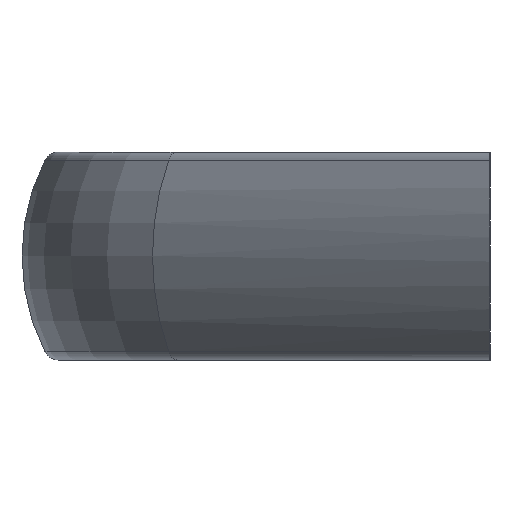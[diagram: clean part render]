
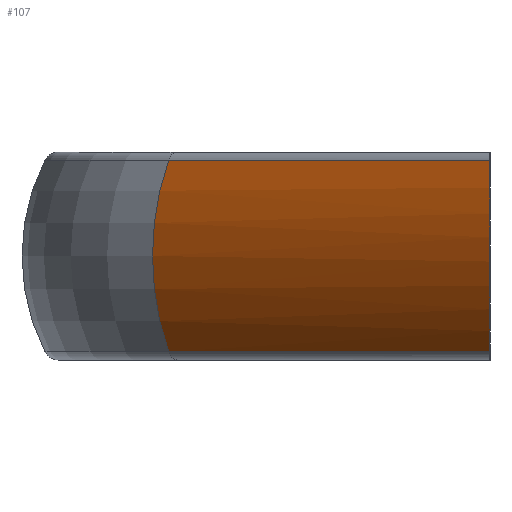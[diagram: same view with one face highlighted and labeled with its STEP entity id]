
A CAD part, left-side view. The second image highlights one B-rep face of the part: STEP entity #107.
In plain terms, the highlighted cylindrical face has radius 28.5 mm (diameter 57 mm), a partial arc.
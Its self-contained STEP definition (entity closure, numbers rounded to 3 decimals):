
#107 = ADVANCED_FACE( '', ( #181 ), #182, .T. );
#181 = FACE_OUTER_BOUND( '', #263, .T. );
#182 = CYLINDRICAL_SURFACE( '', #264, 28.5 );
#263 = EDGE_LOOP( '', ( #512, #513, #514, #515 ) );
#264 = AXIS2_PLACEMENT_3D( '', #516, #517, #518 );
#512 = ORIENTED_EDGE( '', *, *, #644, .F. );
#513 = ORIENTED_EDGE( '', *, *, #643, .T. );
#514 = ORIENTED_EDGE( '', *, *, #623, .F. );
#515 = ORIENTED_EDGE( '', *, *, #645, .F. );
#516 = CARTESIAN_POINT( '', ( -174.86, -45.437, 0. ) );
#517 = DIRECTION( '', ( -0.707, -0.707, 0. ) );
#518 = DIRECTION( '', ( -0.707, 0.707, 0. ) );
#623 = EDGE_CURVE( '', #748, #751, #752, .T. );
#643 = EDGE_CURVE( '', #777, #751, #779, .T. );
#644 = EDGE_CURVE( '', #777, #780, #781, .T. );
#645 = EDGE_CURVE( '', #780, #748, #782, .T. );
#748 = VERTEX_POINT( '', #904 );
#751 = VERTEX_POINT( '', #907 );
#752 = CIRCLE( '', #908, 28.5 );
#777 = VERTEX_POINT( '', #939 );
#779 = LINE( '', #941, #942 );
#780 = VERTEX_POINT( '', #943 );
#781 = ELLIPSE( '', #944, 40.305, 28.5 );
#782 = LINE( '', #945, #946 );
#904 = CARTESIAN_POINT( '', ( -122.117, 43.242, -12.906 ) );
#907 = CARTESIAN_POINT( '', ( -122.117, 43.242, 12.906 ) );
#908 = AXIS2_PLACEMENT_3D( '', #1088, #1089, #1090 );
#939 = CARTESIAN_POINT( '', ( -165.359, 0., 12.906 ) );
#941 = CARTESIAN_POINT( '', ( -192.827, -27.469, 12.906 ) );
#942 = VECTOR( '', #1136, 1000. );
#943 = CARTESIAN_POINT( '', ( -165.359, 0., -12.906 ) );
#944 = AXIS2_PLACEMENT_3D( '', #1137, #1138, #1139 );
#945 = CARTESIAN_POINT( '', ( -192.827, -27.469, -12.906 ) );
#946 = VECTOR( '', #1140, 1000. );
#1088 = CARTESIAN_POINT( '', ( -104.149, 25.274, 0. ) );
#1089 = DIRECTION( '', ( 0.707, 0.707, 0. ) );
#1090 = DIRECTION( '', ( 0., 0., -1. ) );
#1136 = DIRECTION( '', ( 0.707, 0.707, 0. ) );
#1137 = CARTESIAN_POINT( '', ( -129.423, 0., 0. ) );
#1138 = DIRECTION( '', ( 0., -1., 0. ) );
#1139 = DIRECTION( '', ( 1., 0., 0. ) );
#1140 = DIRECTION( '', ( 0.707, 0.707, 0. ) );
